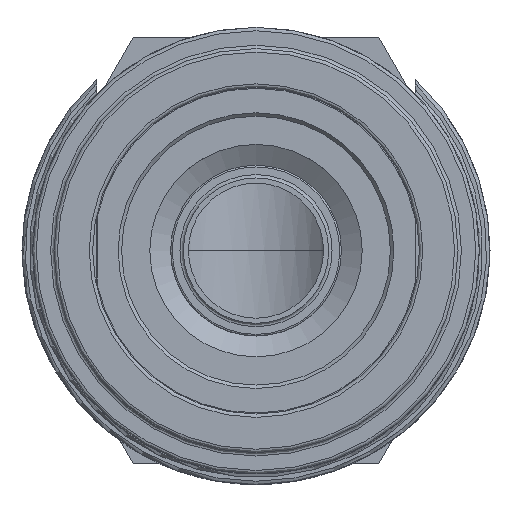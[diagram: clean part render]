
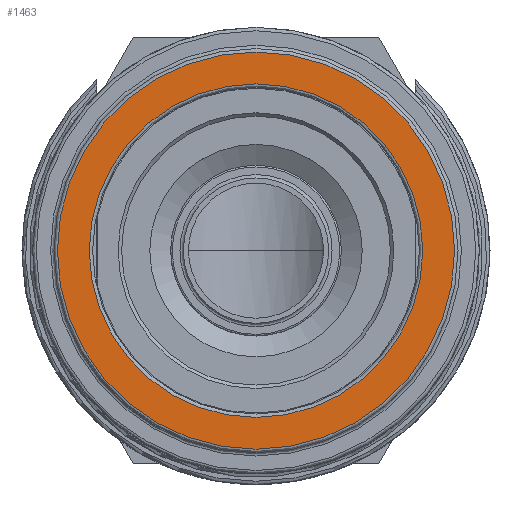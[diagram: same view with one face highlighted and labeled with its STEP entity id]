
A CAD part, front view. The second image highlights one B-rep face of the part: STEP entity #1463.
In plain terms, the highlighted planar face has unit normal (0, -1, 0).
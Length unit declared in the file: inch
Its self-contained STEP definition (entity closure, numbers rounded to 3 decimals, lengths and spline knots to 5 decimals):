
#47=FACE_BOUND('',#245,.T.);
#157=FACE_OUTER_BOUND('',#244,.T.);
#244=EDGE_LOOP('',(#1055));
#245=EDGE_LOOP('',(#1056));
#539=CIRCLE('',#1609,0.49);
#540=CIRCLE('',#1611,0.5835);
#642=VERTEX_POINT('',#2369);
#643=VERTEX_POINT('',#2373);
#799=EDGE_CURVE('',#642,#642,#539,.T.);
#800=EDGE_CURVE('',#643,#643,#540,.T.);
#1055=ORIENTED_EDGE('',*,*,#800,.F.);
#1056=ORIENTED_EDGE('',*,*,#799,.F.);
#1417=PLANE('',#1610);
#1463=ADVANCED_FACE('',(#157,#47),#1417,.T.);
#1609=AXIS2_PLACEMENT_3D('',#2371,#1852,#1853);
#1610=AXIS2_PLACEMENT_3D('',#2372,#1854,#1855);
#1611=AXIS2_PLACEMENT_3D('',#2374,#1856,#1857);
#1852=DIRECTION('center_axis',(0.,-1.,0.));
#1853=DIRECTION('ref_axis',(0.,0.,1.));
#1854=DIRECTION('center_axis',(0.,-1.,0.));
#1855=DIRECTION('ref_axis',(0.,0.,-1.));
#1856=DIRECTION('center_axis',(0.,1.,0.));
#1857=DIRECTION('ref_axis',(0.,0.,1.));
#2369=CARTESIAN_POINT('',(0.,0.,0.49));
#2371=CARTESIAN_POINT('Origin',(0.,0.,0.));
#2372=CARTESIAN_POINT('Origin',(0.,0.,-0.48));
#2373=CARTESIAN_POINT('',(0.,0.,0.5835));
#2374=CARTESIAN_POINT('Origin',(0.,0.,0.));
